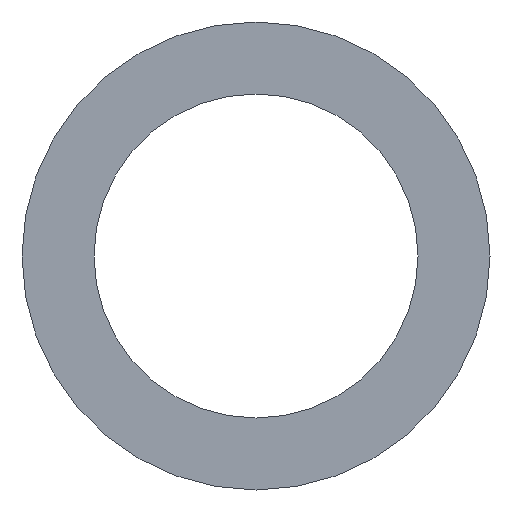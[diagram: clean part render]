
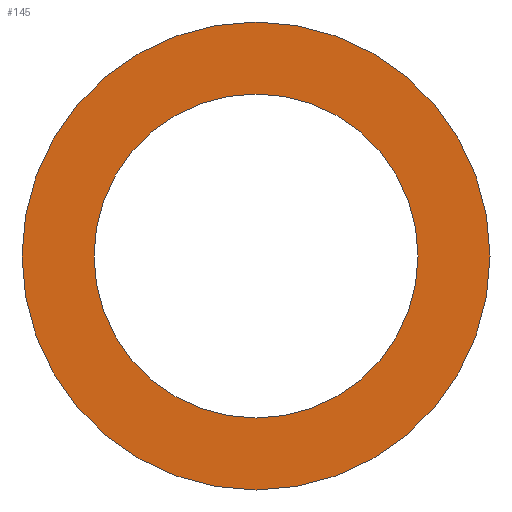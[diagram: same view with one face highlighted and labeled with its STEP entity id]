
A CAD part, front view. The second image highlights one B-rep face of the part: STEP entity #145.
In plain terms, the highlighted planar face has unit normal (0, -1, 0).
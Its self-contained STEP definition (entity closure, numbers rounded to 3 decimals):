
#64 = CIRCLE ( 'NONE', #3354, 65. ) ;
#104 = EDGE_CURVE ( 'NONE', #3970, #884, #3588, .T. ) ;
#145 = ADVANCED_FACE ( 'NONE', ( #3832, #2087 ), #509, .F. ) ;
#192 = EDGE_CURVE ( 'NONE', #1314, #3030, #1789, .T. ) ;
#509 = PLANE ( 'NONE',  #3590 ) ;
#884 = VERTEX_POINT ( 'NONE', #2237 ) ;
#941 = CARTESIAN_POINT ( 'NONE',  ( 0., -20., 45. ) ) ;
#952 = EDGE_LOOP ( 'NONE', ( #3195, #2670 ) ) ;
#1127 = CARTESIAN_POINT ( 'NONE',  ( 0., -20., 0. ) ) ;
#1202 = CARTESIAN_POINT ( 'NONE',  ( 0., -20., 65. ) ) ;
#1231 = AXIS2_PLACEMENT_3D ( 'NONE', #2081, #3999, #2393 ) ;
#1254 = CARTESIAN_POINT ( 'NONE',  ( 0., -20., 0. ) ) ;
#1314 = VERTEX_POINT ( 'NONE', #3772 ) ;
#1418 = EDGE_LOOP ( 'NONE', ( #2718, #3373 ) ) ;
#1445 = AXIS2_PLACEMENT_3D ( 'NONE', #1254, #1881, #1548 ) ;
#1548 = DIRECTION ( 'NONE',  ( 0., 0., -1. ) ) ;
#1789 = CIRCLE ( 'NONE', #1445, 45. ) ;
#1806 = DIRECTION ( 'NONE',  ( 0., 0., -1. ) ) ;
#1881 = DIRECTION ( 'NONE',  ( 0., -1., 0. ) ) ;
#2081 = CARTESIAN_POINT ( 'NONE',  ( 0., -20., 0. ) ) ;
#2087 = FACE_OUTER_BOUND ( 'NONE', #952, .T. ) ;
#2200 = DIRECTION ( 'NONE',  ( 0., 1., 0. ) ) ;
#2237 = CARTESIAN_POINT ( 'NONE',  ( 0., -20., -65. ) ) ;
#2393 = DIRECTION ( 'NONE',  ( 0., 0., -1. ) ) ;
#2670 = ORIENTED_EDGE ( 'NONE', *, *, #104, .T. ) ;
#2718 = ORIENTED_EDGE ( 'NONE', *, *, #3243, .F. ) ;
#2833 = EDGE_CURVE ( 'NONE', #884, #3970, #64, .T. ) ;
#2841 = CARTESIAN_POINT ( 'NONE',  ( 0., -20., -45. ) ) ;
#3030 = VERTEX_POINT ( 'NONE', #2841 ) ;
#3195 = ORIENTED_EDGE ( 'NONE', *, *, #2833, .T. ) ;
#3243 = EDGE_CURVE ( 'NONE', #3030, #1314, #4045, .T. ) ;
#3354 = AXIS2_PLACEMENT_3D ( 'NONE', #3402, #3728, #1806 ) ;
#3373 = ORIENTED_EDGE ( 'NONE', *, *, #192, .F. ) ;
#3402 = CARTESIAN_POINT ( 'NONE',  ( 0., -20., 0. ) ) ;
#3484 = DIRECTION ( 'NONE',  ( 0., 0., 1. ) ) ;
#3588 = CIRCLE ( 'NONE', #1231, 65. ) ;
#3590 = AXIS2_PLACEMENT_3D ( 'NONE', #941, #2200, #3484 ) ;
#3684 = DIRECTION ( 'NONE',  ( 0., 0., -1. ) ) ;
#3728 = DIRECTION ( 'NONE',  ( 0., -1., 0. ) ) ;
#3772 = CARTESIAN_POINT ( 'NONE',  ( 0., -20., 45. ) ) ;
#3832 = FACE_BOUND ( 'NONE', #1418, .T. ) ;
#3855 = AXIS2_PLACEMENT_3D ( 'NONE', #1127, #3969, #3684 ) ;
#3969 = DIRECTION ( 'NONE',  ( 0., -1., 0. ) ) ;
#3970 = VERTEX_POINT ( 'NONE', #1202 ) ;
#3999 = DIRECTION ( 'NONE',  ( 0., -1., 0. ) ) ;
#4045 = CIRCLE ( 'NONE', #3855, 45. ) ;
